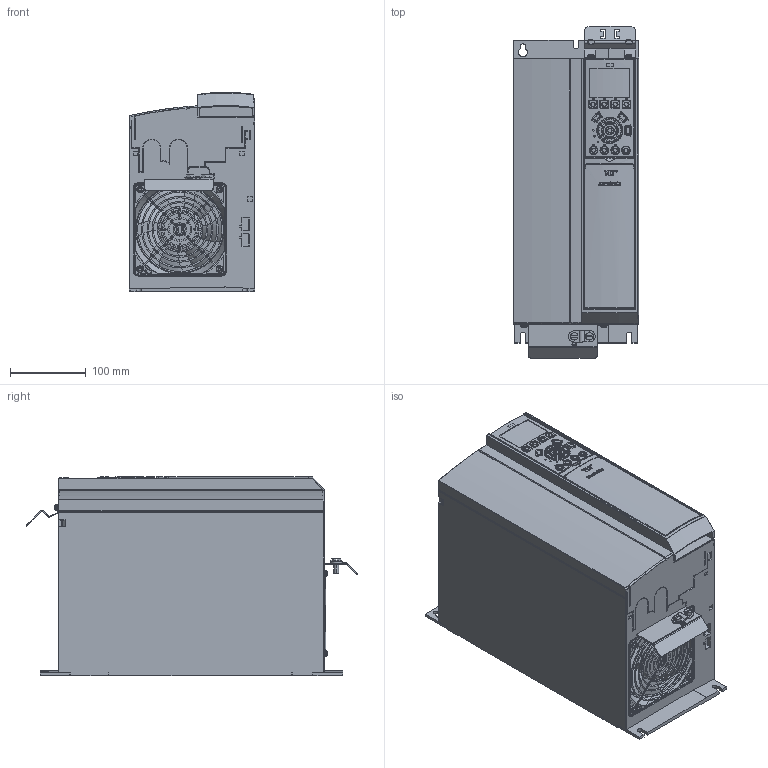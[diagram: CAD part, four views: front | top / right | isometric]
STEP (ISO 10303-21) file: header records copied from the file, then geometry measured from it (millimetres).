
FILE_DESCRIPTION((''),'2;1');
FILE_NAME('DANFOSS-FC300-B3-IP20-A-099','2007-06-14T',('janardhan.mankala'),('dan Drives A/S'),'PRO/ENGINEER BY PARAMETRIC TECHNOLOGY CORPORATION, 2006200','PRO/ENGINEER BY PARAMETRIC TECHNOLOGY CORPORATION, 2006200','');
FILE_SCHEMA(('CONFIG_CONTROL_DESIGN', 'GEOMETRIC_VALIDATION_PROPERTIES_MIM'));
Products named in the file (1): DANFOSS-FC300-B3-IP20-A-099
Bounding box: 165 x 437.49 x 262.51 mm (x, y, z)
Volume: 14050497 mm3; surface area: 538687.1 mm2
Topology: 2 solids, 19 shells, 3468 faces, 8554 edges, 5236 vertices
Faces by surface type: plane 1114, cylinder 1106, bspline 520, torus 308, extrusion 182, sphere 147, cone 91
Entity records: 185661 total; most frequent: CARTESIAN_POINT 60029, ORIENTED_EDGE 17096, DIRECTION 14097, PRESENTATION_STYLE_ASSIGNMENT 10876, STYLED_ITEM 8576, CURVE_STYLE 8548, EDGE_CURVE 8548, VERTEX_POINT 5236
